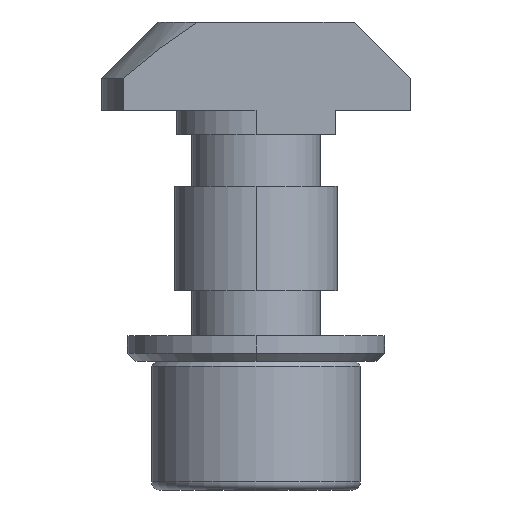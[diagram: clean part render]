
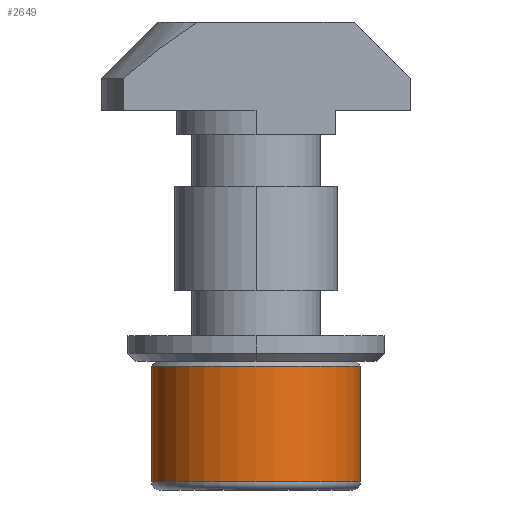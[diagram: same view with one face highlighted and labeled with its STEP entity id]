
A CAD part, left-side view. The second image highlights one B-rep face of the part: STEP entity #2649.
In plain terms, the highlighted cylindrical face has radius 6.5 mm (diameter 13 mm), a partial arc.
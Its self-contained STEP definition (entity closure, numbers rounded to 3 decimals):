
#577 = CARTESIAN_POINT ( 'NONE',  ( -15., 6.5, -12.4 ) ) ;
#584 = LINE ( 'NONE', #577, #2083 ) ;
#698 = CARTESIAN_POINT ( 'NONE',  ( -15., 0., -11.9 ) ) ;
#701 = VERTEX_POINT ( 'NONE', #3005 ) ;
#845 = DIRECTION ( 'NONE',  ( 0., 0., 1. ) ) ;
#867 = FACE_OUTER_BOUND ( 'NONE', #1510, .T. ) ;
#880 = EDGE_CURVE ( 'NONE', #1593, #3606, #2804, .T. ) ;
#886 = CARTESIAN_POINT ( 'NONE',  ( -15., -6.5, -12.4 ) ) ;
#1000 = DIRECTION ( 'NONE',  ( 0., 1., 0. ) ) ;
#1091 = DIRECTION ( 'NONE',  ( 0., 1., 0. ) ) ;
#1155 = EDGE_CURVE ( 'NONE', #1891, #3606, #584, .T. ) ;
#1185 = LINE ( 'NONE', #886, #1977 ) ;
#1218 = ORIENTED_EDGE ( 'NONE', *, *, #2797, .T. ) ;
#1396 = CARTESIAN_POINT ( 'NONE',  ( -15., 0., -4.7 ) ) ;
#1510 = EDGE_LOOP ( 'NONE', ( #2533, #3738, #1218, #1771 ) ) ;
#1593 = VERTEX_POINT ( 'NONE', #2142 ) ;
#1771 = ORIENTED_EDGE ( 'NONE', *, *, #880, .T. ) ;
#1776 = AXIS2_PLACEMENT_3D ( 'NONE', #698, #2798, #1000 ) ;
#1891 = VERTEX_POINT ( 'NONE', #3186 ) ;
#1977 = VECTOR ( 'NONE', #2991, 1000. ) ;
#2026 = DIRECTION ( 'NONE',  ( 0., -1., 0. ) ) ;
#2034 = AXIS2_PLACEMENT_3D ( 'NONE', #3223, #845, #2026 ) ;
#2048 = CARTESIAN_POINT ( 'NONE',  ( -15., 6.5, -4.7 ) ) ;
#2083 = VECTOR ( 'NONE', #2393, 1000. ) ;
#2142 = CARTESIAN_POINT ( 'NONE',  ( -15., -6.5, -4.7 ) ) ;
#2270 = CYLINDRICAL_SURFACE ( 'NONE', #2034, 6.5 ) ;
#2393 = DIRECTION ( 'NONE',  ( 0., 0., 1. ) ) ;
#2533 = ORIENTED_EDGE ( 'NONE', *, *, #1155, .F. ) ;
#2649 = ADVANCED_FACE ( 'NONE', ( #867 ), #2270, .T. ) ;
#2797 = EDGE_CURVE ( 'NONE', #701, #1593, #1185, .T. ) ;
#2798 = DIRECTION ( 'NONE',  ( 0., 0., 1. ) ) ;
#2804 = CIRCLE ( 'NONE', #3127, 6.5 ) ;
#2917 = DIRECTION ( 'NONE',  ( 0., 0., -1. ) ) ;
#2991 = DIRECTION ( 'NONE',  ( 0., 0., 1. ) ) ;
#3005 = CARTESIAN_POINT ( 'NONE',  ( -15., -6.5, -11.9 ) ) ;
#3071 = CIRCLE ( 'NONE', #1776, 6.5 ) ;
#3127 = AXIS2_PLACEMENT_3D ( 'NONE', #1396, #2917, #1091 ) ;
#3186 = CARTESIAN_POINT ( 'NONE',  ( -15., 6.5, -11.9 ) ) ;
#3223 = CARTESIAN_POINT ( 'NONE',  ( -15., 0., -12.4 ) ) ;
#3606 = VERTEX_POINT ( 'NONE', #2048 ) ;
#3738 = ORIENTED_EDGE ( 'NONE', *, *, #3784, .T. ) ;
#3784 = EDGE_CURVE ( 'NONE', #1891, #701, #3071, .T. ) ;
